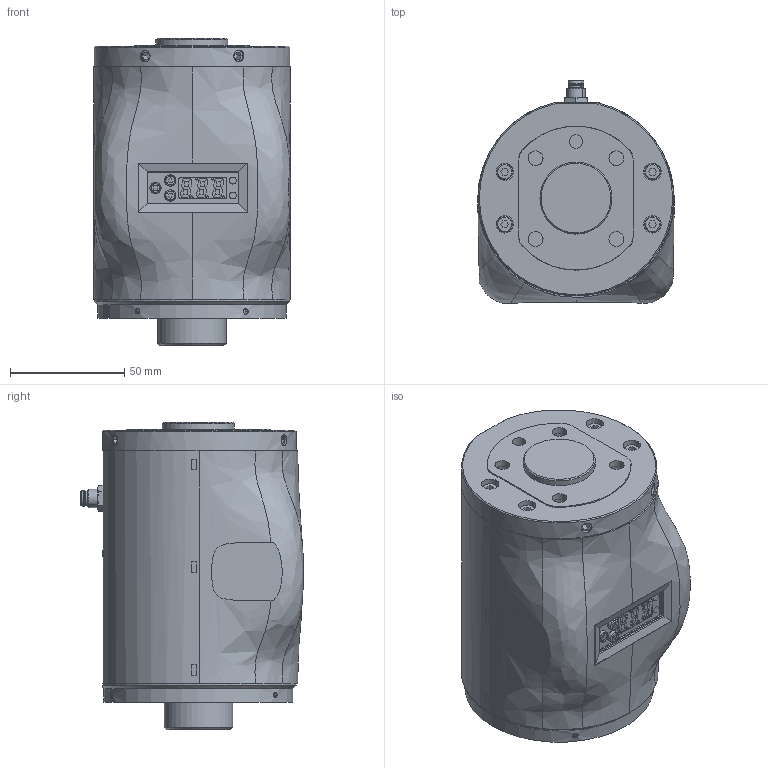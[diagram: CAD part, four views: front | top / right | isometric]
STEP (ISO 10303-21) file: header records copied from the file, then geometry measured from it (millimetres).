
FILE_DESCRIPTION(('STEP AP203'),'1');
FILE_NAME('SGE-M10-N.stp','2023-09-01T05:16:28',(' '),(' '),'Spatial InterOp 3D',' ',' ');
FILE_SCHEMA(('CONFIG_CONTROL_DESIGN'));
Length unit declared in the file: millimetre
Products named in the file (3): SGE-M10-N; ASSY; パーツ1
Assembly tree (2 placements, depth 2):
  SGE-M10-N
    ASSY
    パーツ1
Bounding box: 86.02 x 97.48 x 134.5 mm (x, y, z)
Volume: 218815.7 mm3; surface area: 97471.1 mm2
Topology: 6 solids, 11 shells, 976 faces, 2747 edges, 1884 vertices
Faces by surface type: plane 667, cylinder 217, cone 41, bspline 36, offset 10, torus 5
Full cylindrical faces by diameter (mm): 1 x5, 1.6 x4, 2.5 x18, 3 x2, 4 x4, 4.1 x4, 4.2 x8, 4.8 x3, 5 x31, 6 x1, 6.5 x4, 7 x8, 7.6 x8, 8.2 x1, 8.5 x1, 11 x4, 30 x1, 31.5 x1, 82.6 x1
Entity records: 41173 total; most frequent: CARTESIAN_POINT 18543, ORIENTED_EDGE 4887, DIRECTION 4092, EDGE_CURVE 2447, VERTEX_POINT 1743, LINE 1544, VECTOR 1544, AXIS2_PLACEMENT_3D 1274
